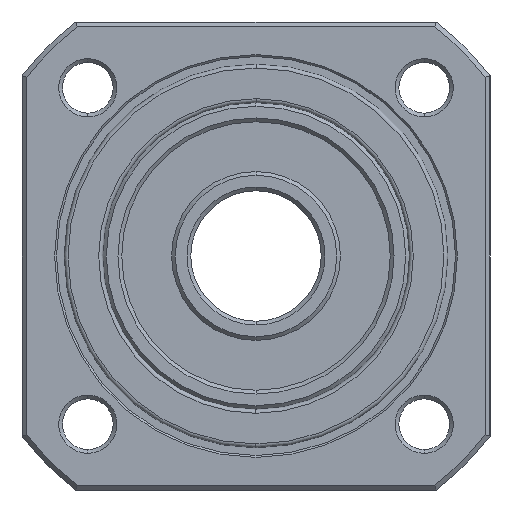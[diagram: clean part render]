
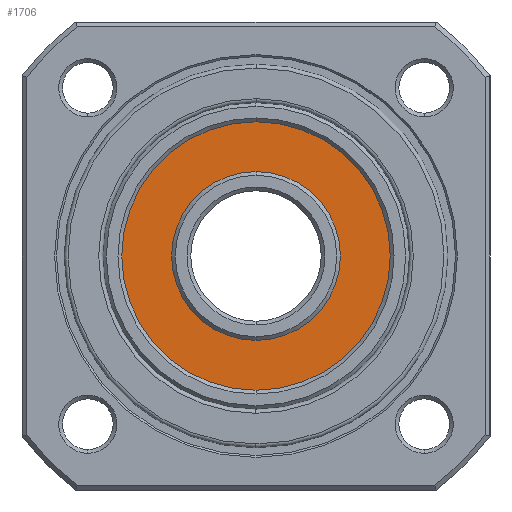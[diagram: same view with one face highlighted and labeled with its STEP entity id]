
A CAD part, left-side view. The second image highlights one B-rep face of the part: STEP entity #1706.
In plain terms, the highlighted planar face has unit normal (-1, 0, 0) as drawn and (0, 0, 1) by its records, which use the part's own axes.
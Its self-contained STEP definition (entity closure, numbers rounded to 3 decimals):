
#37 = CARTESIAN_POINT ( 'NONE',  ( 0., 0., -6.5 ) ) ;
#193 = CIRCLE ( 'NONE', #4626, 17.5 ) ;
#364 = EDGE_CURVE ( 'NONE', #3341, #806, #193, .T. ) ;
#806 = VERTEX_POINT ( 'NONE', #5585 ) ;
#906 = DIRECTION ( 'NONE',  ( 0., 0., 1. ) ) ;
#933 = DIRECTION ( 'NONE',  ( -1., 0., 0. ) ) ;
#967 = CARTESIAN_POINT ( 'NONE',  ( 0., 0., -6.5 ) ) ;
#1267 = DIRECTION ( 'NONE',  ( -1., 0., 0. ) ) ;
#1277 = FACE_OUTER_BOUND ( 'NONE', #2672, .T. ) ;
#1362 = VERTEX_POINT ( 'NONE', #3395 ) ;
#1406 = DIRECTION ( 'NONE',  ( 0., 0., 1. ) ) ;
#1706 = ADVANCED_FACE ( 'NONE', ( #2108, #1277 ), #5541, .T. ) ;
#1712 = ORIENTED_EDGE ( 'NONE', *, *, #5120, .T. ) ;
#1750 = DIRECTION ( 'NONE',  ( 0., 0., -1. ) ) ;
#1840 = DIRECTION ( 'NONE',  ( 0., 0., -1. ) ) ;
#1930 = EDGE_LOOP ( 'NONE', ( #3394, #3818 ) ) ;
#2108 = FACE_BOUND ( 'NONE', #1930, .T. ) ;
#2171 = CARTESIAN_POINT ( 'NONE',  ( 0., 0., -6.5 ) ) ;
#2237 = CIRCLE ( 'NONE', #5387, 17.5 ) ;
#2245 = CARTESIAN_POINT ( 'NONE',  ( 0., 0., -6.5 ) ) ;
#2448 = EDGE_CURVE ( 'NONE', #1362, #2599, #5309, .T. ) ;
#2559 = CARTESIAN_POINT ( 'NONE',  ( -11., 0., -6.5 ) ) ;
#2582 = AXIS2_PLACEMENT_3D ( 'NONE', #2171, #1750, #933 ) ;
#2599 = VERTEX_POINT ( 'NONE', #2559 ) ;
#2672 = EDGE_LOOP ( 'NONE', ( #5148, #1712 ) ) ;
#3039 = CIRCLE ( 'NONE', #2582, 11. ) ;
#3136 = DIRECTION ( 'NONE',  ( -1., 0., 0. ) ) ;
#3341 = VERTEX_POINT ( 'NONE', #3550 ) ;
#3394 = ORIENTED_EDGE ( 'NONE', *, *, #2448, .T. ) ;
#3395 = CARTESIAN_POINT ( 'NONE',  ( 11., 0., -6.5 ) ) ;
#3455 = EDGE_CURVE ( 'NONE', #2599, #1362, #3039, .T. ) ;
#3550 = CARTESIAN_POINT ( 'NONE',  ( 17.5, 0., -6.5 ) ) ;
#3818 = ORIENTED_EDGE ( 'NONE', *, *, #3455, .T. ) ;
#3911 = DIRECTION ( 'NONE',  ( 0., 0., 1. ) ) ;
#4338 = DIRECTION ( 'NONE',  ( -1., 0., 0. ) ) ;
#4340 = DIRECTION ( 'NONE',  ( 1., 0., 0. ) ) ;
#4626 = AXIS2_PLACEMENT_3D ( 'NONE', #2245, #906, #4338 ) ;
#4816 = AXIS2_PLACEMENT_3D ( 'NONE', #37, #3911, #4340 ) ;
#4963 = AXIS2_PLACEMENT_3D ( 'NONE', #967, #1840, #1267 ) ;
#5120 = EDGE_CURVE ( 'NONE', #806, #3341, #2237, .T. ) ;
#5148 = ORIENTED_EDGE ( 'NONE', *, *, #364, .T. ) ;
#5256 = CARTESIAN_POINT ( 'NONE',  ( 0., 0., -6.5 ) ) ;
#5309 = CIRCLE ( 'NONE', #4963, 11. ) ;
#5387 = AXIS2_PLACEMENT_3D ( 'NONE', #5256, #1406, #3136 ) ;
#5541 = PLANE ( 'NONE',  #4816 ) ;
#5585 = CARTESIAN_POINT ( 'NONE',  ( -17.5, 0., -6.5 ) ) ;
